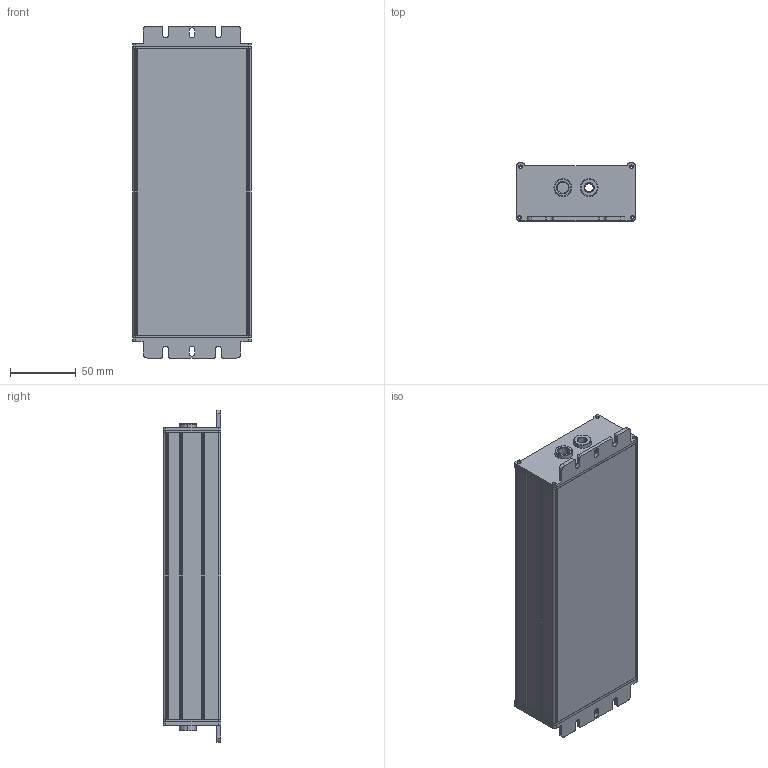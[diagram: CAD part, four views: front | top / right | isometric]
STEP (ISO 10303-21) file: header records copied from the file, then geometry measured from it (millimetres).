
FILE_DESCRIPTION((''),'2;1');
FILE_NAME('320W_DIM_ASM','2017-03-16T',('ERIC.YP.CHEN'),(''),'PRO/ENGINEER BY PARAMETRIC TECHNOLOGY CORPORATION, 2010280','PRO/ENGINEER BY PARAMETRIC TECHNOLOGY CORPORATION, 2010280','');
FILE_SCHEMA(('AUTOMOTIVE_DESIGN { 1 2 10303 214 0 1 1 1 }'));
Length unit declared in the file: millimetre
Products named in the file (7): CHASSIS; PRT0001; BREAKET_IN; INSULATOR; 1; BREAKET_DIM; 320W_DIM_ASM
Assembly tree (6 placements, depth 2):
  320W_DIM_ASM
    CHASSIS
    PRT0001
    BREAKET_IN
    INSULATOR
    1
    BREAKET_DIM
Bounding box: 90 x 43.8 x 252 mm (x, y, z)
Volume: 217652 mm3; surface area: 262073.1 mm2
Topology: 6 solids, 6 shells, 419 faces, 1168 edges, 766 vertices
Faces by surface type: plane 215, cylinder 176, cone 22, torus 6
Entity records: 15849 total; most frequent: CARTESIAN_POINT 2437, DIRECTION 2402, ORIENTED_EDGE 2336, EDGE_CURVE 1168, AXIS2_PLACEMENT_3D 818, VECTOR 766, LINE 766, VERTEX_POINT 766
